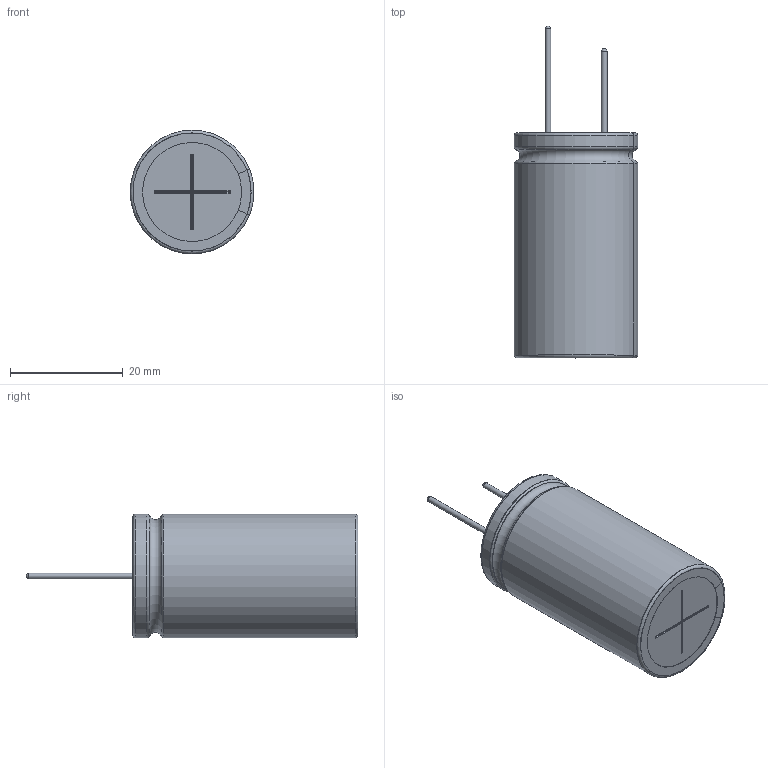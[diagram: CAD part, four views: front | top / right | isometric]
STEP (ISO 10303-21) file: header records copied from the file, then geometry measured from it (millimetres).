
FILE_DESCRIPTION(/* description */ (''),/* implementation_level */ '2;1');
FILE_NAME(/* name */ '22x40_Lead.stp',/* time_stamp */ '2017-09-06T16:12:38+09:00',/* author */ (''),/* organization */ (''),/* preprocessor_version */ 'ST-DEVELOPER v16',/* originating_system */ 'SIEMENS PLM Software NX 11.0',/* authorisation */ '');
FILE_SCHEMA (('AUTOMOTIVE_DESIGN { 1 0 10303 214 3 1 1 1 }'));
Length unit declared in the file: millimetre
Products named in the file (1): 22x40_Lead_0
Bounding box: 21.97 x 59 x 22 mm (x, y, z)
Volume: 15082.2 mm3; surface area: 9688.4 mm2
Topology: 3 solids, 3 shells, 100 faces, 252 edges, 160 vertices
Faces by surface type: cylinder 36, plane 28, torus 26, sphere 6, bspline 4
Full cylindrical faces by diameter (mm): 1 x2, 21.8 x2
Entity records: 3386 total; most frequent: CARTESIAN_POINT 605, DIRECTION 566, ORIENTED_EDGE 468, AXIS2_PLACEMENT_3D 235, EDGE_CURVE 234, VERTEX_POINT 154, CIRCLE 130, EDGE_LOOP 114
